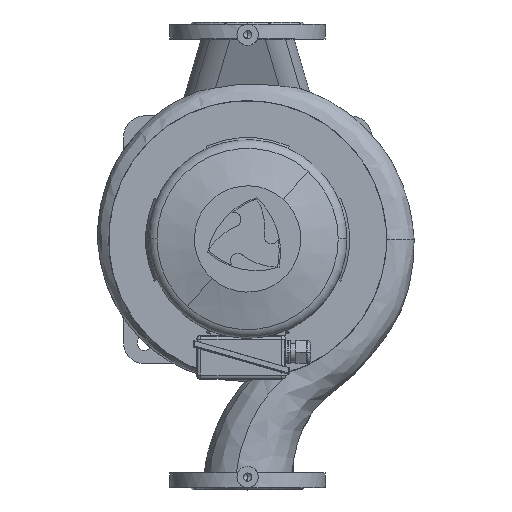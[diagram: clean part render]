
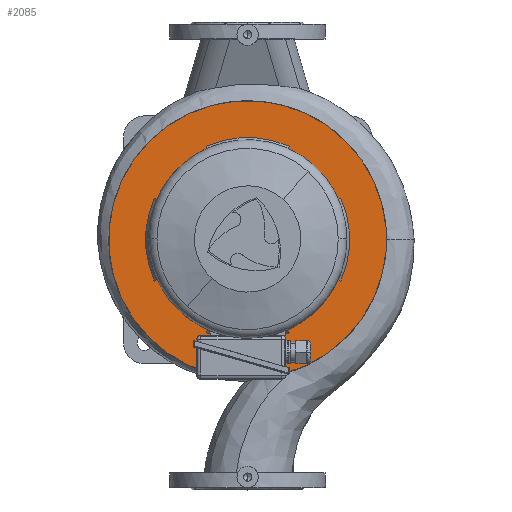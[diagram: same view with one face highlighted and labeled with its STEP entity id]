
A CAD part, top view. The second image highlights one B-rep face of the part: STEP entity #2085.
In plain terms, the highlighted planar face has unit normal (0, 0, 1) as drawn and (1, 0, 0) by its records, which use the part's own axes.
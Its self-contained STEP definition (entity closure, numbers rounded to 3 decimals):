
#2085=ADVANCED_FACE('',(#5860,#5861),#5862,.T.);
#2109=EDGE_CURVE('',#5901,#5902,#5903,.T.);
#2133=EDGE_CURVE('',#5945,#5946,#5947,.T.);
#2141=EDGE_CURVE('',#5955,#5958,#5959,.T.);
#2149=EDGE_CURVE('',#5967,#5970,#5971,.T.);
#2155=EDGE_CURVE('',#5974,#5946,#5979,.T.);
#2157=EDGE_CURVE('',#5981,#5958,#5982,.T.);
#2165=EDGE_CURVE('',#5993,#5989,#5994,.T.);
#2173=EDGE_CURVE('',#6004,#6000,#6005,.T.);
#2181=EDGE_CURVE('',#6011,#6014,#6015,.T.);
#2191=EDGE_CURVE('',#6025,#5955,#6028,.T.);
#2197=EDGE_CURVE('',#6033,#5967,#6036,.T.);
#2205=EDGE_CURVE('',#6044,#6039,#6047,.T.);
#2207=EDGE_CURVE('',#5970,#5989,#6049,.T.);
#2211=EDGE_CURVE('',#6039,#6000,#6053,.T.);
#2215=EDGE_CURVE('',#6014,#5945,#6057,.T.);
#2219=EDGE_CURVE('',#5981,#6033,#6061,.T.);
#2223=EDGE_CURVE('',#5993,#6044,#6065,.T.);
#2225=EDGE_CURVE('',#5974,#6025,#6067,.T.);
#2229=EDGE_CURVE('',#5902,#5901,#6071,.T.);
#2231=EDGE_CURVE('',#6004,#6011,#6073,.T.);
#5860=FACE_OUTER_BOUND('',#11392,.T.);
#5861=FACE_BOUND('',#11393,.T.);
#5862=PLANE('',#11394);
#5901=VERTEX_POINT('',#11435);
#5902=VERTEX_POINT('',#11436);
#5903=CIRCLE('',#11437,196.0);
#5945=VERTEX_POINT('',#11491);
#5946=VERTEX_POINT('',#11492);
#5947=CIRCLE('',#11493,132.799);
#5955=VERTEX_POINT('',#11513);
#5958=VERTEX_POINT('',#11526);
#5959=CIRCLE('',#11527,132.799);
#5967=VERTEX_POINT('',#11547);
#5970=VERTEX_POINT('',#11560);
#5971=CIRCLE('',#11561,132.799);
#5974=VERTEX_POINT('',#11565);
#5979=LINE('',#11582,#11583);
#5981=VERTEX_POINT('',#11586);
#5982=LINE('',#11587,#11588);
#5989=VERTEX_POINT('',#11608);
#5993=VERTEX_POINT('',#11622);
#5994=LINE('',#11623,#11624);
#6000=VERTEX_POINT('',#11643);
#6004=VERTEX_POINT('',#11657);
#6005=LINE('',#11658,#11659);
#6011=VERTEX_POINT('',#11678);
#6014=VERTEX_POINT('',#11691);
#6015=LINE('',#11692,#11693);
#6025=VERTEX_POINT('',#11718);
#6028=LINE('',#11731,#11732);
#6033=VERTEX_POINT('',#11740);
#6036=LINE('',#11753,#11754);
#6039=VERTEX_POINT('',#11758);
#6044=VERTEX_POINT('',#11775);
#6047=LINE('',#11788,#11789);
#6049=CIRCLE('',#11792,132.799);
#6053=CIRCLE('',#11798,132.799);
#6057=CIRCLE('',#11804,132.799);
#6061=CIRCLE('',#11810,144.0);
#6065=CIRCLE('',#11816,144.0);
#6067=CIRCLE('',#11819,144.0);
#6071=CIRCLE('',#11825,196.0);
#6073=CIRCLE('',#11828,144.0);
#11392=EDGE_LOOP('',(#20536,#20537));
#11393=EDGE_LOOP('',(#20538,#20539,#20540,#20541,#20542,#20543,#20544,#20545,#20546,#20547,#20548,#20549,#20550,#20551,#20552,#20553,#20554,#20555));
#11394=AXIS2_PLACEMENT_3D('',#20556,#20557,#20558);
#11435=CARTESIAN_POINT('',(20.0,196.0,0.0));
#11436=CARTESIAN_POINT('',(20.0,-196.0,0.));
#11437=AXIS2_PLACEMENT_3D('',#20658,#20659,#20660);
#11491=CARTESIAN_POINT('',(20.0,-132.799,0.));
#11492=CARTESIAN_POINT('',(20.0,-123.51,-48.794));
#11493=AXIS2_PLACEMENT_3D('',#20694,#20695,#20696);
#11513=CARTESIAN_POINT('',(20.0,-48.794,-123.51));
#11526=CARTESIAN_POINT('',(20.0,48.794,-123.51));
#11527=AXIS2_PLACEMENT_3D('',#20700,#20701,#20702);
#11547=CARTESIAN_POINT('',(20.0,123.51,-48.794));
#11560=CARTESIAN_POINT('',(20.0,132.799,0.));
#11561=AXIS2_PLACEMENT_3D('',#20706,#20707,#20708);
#11565=CARTESIAN_POINT('',(20.0,-134.395,-51.711));
#11582=CARTESIAN_POINT('',(20.0,-134.395,-51.711));
#11583=VECTOR('',#20710,1.0);
#11586=CARTESIAN_POINT('',(20.0,51.711,-134.395));
#11587=CARTESIAN_POINT('',(20.0,51.711,-134.395));
#11588=VECTOR('',#20711,1.0);
#11608=CARTESIAN_POINT('',(20.0,123.51,48.794));
#11622=CARTESIAN_POINT('',(20.0,134.395,51.711));
#11623=CARTESIAN_POINT('',(20.0,134.395,51.711));
#11624=VECTOR('',#20713,1.0);
#11643=CARTESIAN_POINT('',(20.0,-48.794,123.51));
#11657=CARTESIAN_POINT('',(20.0,-51.711,134.395));
#11658=CARTESIAN_POINT('',(20.0,-51.711,134.395));
#11659=VECTOR('',#20715,1.0);
#11678=CARTESIAN_POINT('',(20.0,-134.395,51.711));
#11691=CARTESIAN_POINT('',(20.0,-123.51,48.794));
#11692=CARTESIAN_POINT('',(20.0,-134.395,51.711));
#11693=VECTOR('',#20717,1.0);
#11718=CARTESIAN_POINT('',(20.0,-51.711,-134.395));
#11731=CARTESIAN_POINT('',(20.0,-51.711,-134.395));
#11732=VECTOR('',#20720,1.0);
#11740=CARTESIAN_POINT('',(20.0,134.395,-51.711));
#11753=CARTESIAN_POINT('',(20.0,134.395,-51.711));
#11754=VECTOR('',#20722,1.0);
#11758=CARTESIAN_POINT('',(20.0,48.794,123.51));
#11775=CARTESIAN_POINT('',(20.0,51.711,134.395));
#11788=CARTESIAN_POINT('',(20.0,51.711,134.395));
#11789=VECTOR('',#20724,1.0);
#11792=AXIS2_PLACEMENT_3D('',#20725,#20726,#20727);
#11798=AXIS2_PLACEMENT_3D('',#20731,#20732,#20733);
#11804=AXIS2_PLACEMENT_3D('',#20737,#20738,#20739);
#11810=AXIS2_PLACEMENT_3D('',#20743,#20744,#20745);
#11816=AXIS2_PLACEMENT_3D('',#20749,#20750,#20751);
#11819=AXIS2_PLACEMENT_3D('',#20752,#20753,#20754);
#11825=AXIS2_PLACEMENT_3D('',#20758,#20759,#20760);
#11828=AXIS2_PLACEMENT_3D('',#20761,#20762,#20763);
#20536=ORIENTED_EDGE('',*,*,#2109,.T.);
#20537=ORIENTED_EDGE('',*,*,#2229,.T.);
#20538=ORIENTED_EDGE('',*,*,#2231,.F.);
#20539=ORIENTED_EDGE('',*,*,#2173,.T.);
#20540=ORIENTED_EDGE('',*,*,#2211,.F.);
#20541=ORIENTED_EDGE('',*,*,#2205,.F.);
#20542=ORIENTED_EDGE('',*,*,#2223,.F.);
#20543=ORIENTED_EDGE('',*,*,#2165,.T.);
#20544=ORIENTED_EDGE('',*,*,#2207,.F.);
#20545=ORIENTED_EDGE('',*,*,#2149,.F.);
#20546=ORIENTED_EDGE('',*,*,#2197,.F.);
#20547=ORIENTED_EDGE('',*,*,#2219,.F.);
#20548=ORIENTED_EDGE('',*,*,#2157,.T.);
#20549=ORIENTED_EDGE('',*,*,#2141,.F.);
#20550=ORIENTED_EDGE('',*,*,#2191,.F.);
#20551=ORIENTED_EDGE('',*,*,#2225,.F.);
#20552=ORIENTED_EDGE('',*,*,#2155,.T.);
#20553=ORIENTED_EDGE('',*,*,#2133,.F.);
#20554=ORIENTED_EDGE('',*,*,#2215,.F.);
#20555=ORIENTED_EDGE('',*,*,#2181,.F.);
#20556=CARTESIAN_POINT('',(20.0,170.0,0.0));
#20557=DIRECTION('',(1.0,0.0,0.0));
#20558=DIRECTION('',(0.0,0.0,-1.0));
#20658=CARTESIAN_POINT('',(20.0,0.0,0.0));
#20659=DIRECTION('',(1.0,0.0,0.0));
#20660=DIRECTION('',(0.0,1.0,0.0));
#20694=CARTESIAN_POINT('',(20.0,0.0,0.0));
#20695=DIRECTION('',(1.0,0.0,-0.0));
#20696=DIRECTION('',(0.0,1.0,0.));
#20700=CARTESIAN_POINT('',(20.0,0.0,0.0));
#20701=DIRECTION('',(1.0,0.0,-0.0));
#20702=DIRECTION('',(0.0,1.0,0.));
#20706=CARTESIAN_POINT('',(20.0,0.0,0.0));
#20707=DIRECTION('',(1.0,0.0,-0.0));
#20708=DIRECTION('',(0.0,1.0,0.));
#20710=DIRECTION('',(0.,0.966,0.259));
#20711=DIRECTION('',(0.,-0.259,0.966));
#20713=DIRECTION('',(0.,-0.966,-0.259));
#20715=DIRECTION('',(0.,0.259,-0.966));
#20717=DIRECTION('',(0.,0.966,-0.259));
#20720=DIRECTION('',(0.,0.259,0.966));
#20722=DIRECTION('',(0.,-0.966,0.259));
#20724=DIRECTION('',(0.,-0.259,-0.966));
#20725=CARTESIAN_POINT('',(20.0,0.0,0.0));
#20726=DIRECTION('',(1.0,0.0,-0.0));
#20727=DIRECTION('',(0.0,1.0,0.));
#20731=CARTESIAN_POINT('',(20.0,0.0,0.0));
#20732=DIRECTION('',(1.0,0.0,-0.0));
#20733=DIRECTION('',(0.0,1.0,0.));
#20737=CARTESIAN_POINT('',(20.0,0.0,0.0));
#20738=DIRECTION('',(1.0,0.0,-0.0));
#20739=DIRECTION('',(0.0,1.0,0.));
#20743=CARTESIAN_POINT('',(20.0,0.0,0.0));
#20744=DIRECTION('',(1.0,0.0,0.0));
#20745=DIRECTION('',(0.0,1.0,0.0));
#20749=CARTESIAN_POINT('',(20.0,0.0,0.0));
#20750=DIRECTION('',(1.0,0.0,0.0));
#20751=DIRECTION('',(0.0,1.0,0.0));
#20752=CARTESIAN_POINT('',(20.0,0.0,0.0));
#20753=DIRECTION('',(1.0,0.0,0.0));
#20754=DIRECTION('',(0.0,1.0,0.0));
#20758=CARTESIAN_POINT('',(20.0,0.0,0.0));
#20759=DIRECTION('',(1.0,0.0,0.0));
#20760=DIRECTION('',(0.0,1.0,0.0));
#20761=CARTESIAN_POINT('',(20.0,0.0,0.0));
#20762=DIRECTION('',(1.0,0.0,0.0));
#20763=DIRECTION('',(0.0,1.0,0.0));
